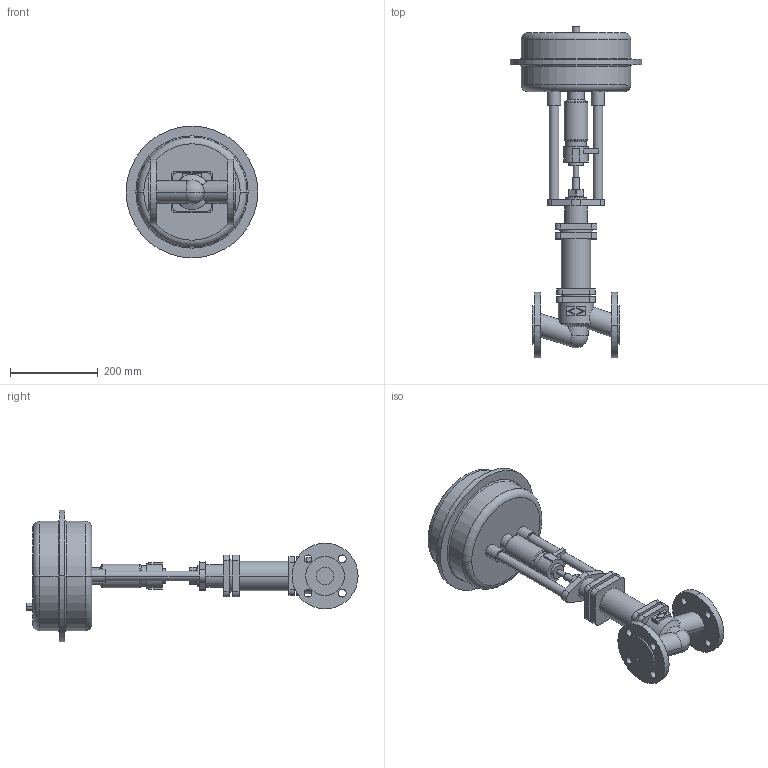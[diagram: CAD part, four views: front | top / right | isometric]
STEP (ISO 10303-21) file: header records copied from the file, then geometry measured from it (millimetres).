
FILE_DESCRIPTION(('OneSpaceDesigner STEP Export'),'2;1');
FILE_NAME('c000002078.stp','2005-12-12T11:15:10',(''),(''),'OneSpace Designer STEP processor for AP203 (Solid Model)','OneSpace Designer 13.20A 18-Aug-2005 (C) CoCreate Software GmbH','');
FILE_SCHEMA(('CONFIG_CONTROL_DESIGN'));
Length unit declared in the file: millimetre
Products named in the file (1): 1
Bounding box: 300 x 756.6 x 300 mm (x, y, z)
Volume: 9588525.7 mm3; surface area: 534140.1 mm2
Topology: 1 solids, 1 shells, 218 faces, 535 edges, 349 vertices
Faces by surface type: cylinder 104, plane 90, torus 16, cone 6, sphere 2
Entity records: 6149 total; most frequent: CARTESIAN_POINT 1231, ORIENTED_EDGE 1066, DIRECTION 925, EDGE_CURVE 533, VERTEX_POINT 349, AXIS2_PLACEMENT_3D 332, EDGE_LOOP 270, VECTOR 261
